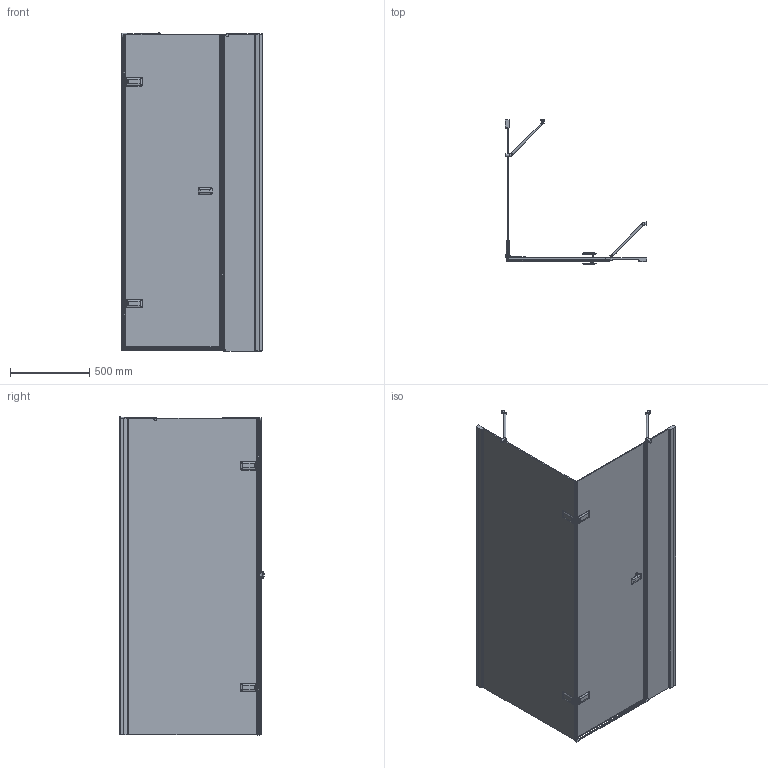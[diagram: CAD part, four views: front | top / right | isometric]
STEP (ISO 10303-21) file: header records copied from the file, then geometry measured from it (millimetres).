
FILE_DESCRIPTION(/* description */ (''),/* implementation_level */ '2;1');
FILE_NAME(/* name */ 'D:\1\Квадратноя серийная\TREND SQUARE GK-863LPTWO\TREND SQUARE GK-863LPTWO правая модель\TREND SQUARE GK-863LPTWO ПРАВАЯ-3D.stp',/* time_stamp */ '2021-08-26T18:03:52+03:00',/* author */ ('User'),/* organization */ (''),/* preprocessor_version */ 'ST-DEVELOPER v15.2',/* originating_system */ 'Autodesk Inventor 2014',/* authorisation */ '');
FILE_SCHEMA (('CONFIG_CONTROL_DESIGN'));
Products named in the file (1): TREND SQUARE GK-863LPTWO ПРАВАЯ-
3D
Bounding box: 893.94 x 910.31 x 2010.49 mm (x, y, z)
Volume: 31915769 mm3; surface area: 7459854.4 mm2
Topology: 8 solids, 8 shells, 1660 faces, 4417 edges, 2760 vertices
Faces by surface type: plane 1021, cylinder 427, bspline 138, torus 33, cone 30, sphere 11
Full cylindrical faces by diameter (mm): 4 x2, 5 x6, 5.2 x2, 6 x2, 7.2 x4, 8 x2, 9 x8, 11 x2, 15 x2, 20 x4, 26 x2
Entity records: 68674 total; most frequent: CARTESIAN_POINT 26591, ORIENTED_EDGE 8562, DIRECTION 8169, EDGE_CURVE 4277, AXIS2_PLACEMENT_3D 2738, VERTEX_POINT 2723, LINE 2693, VECTOR 2693
